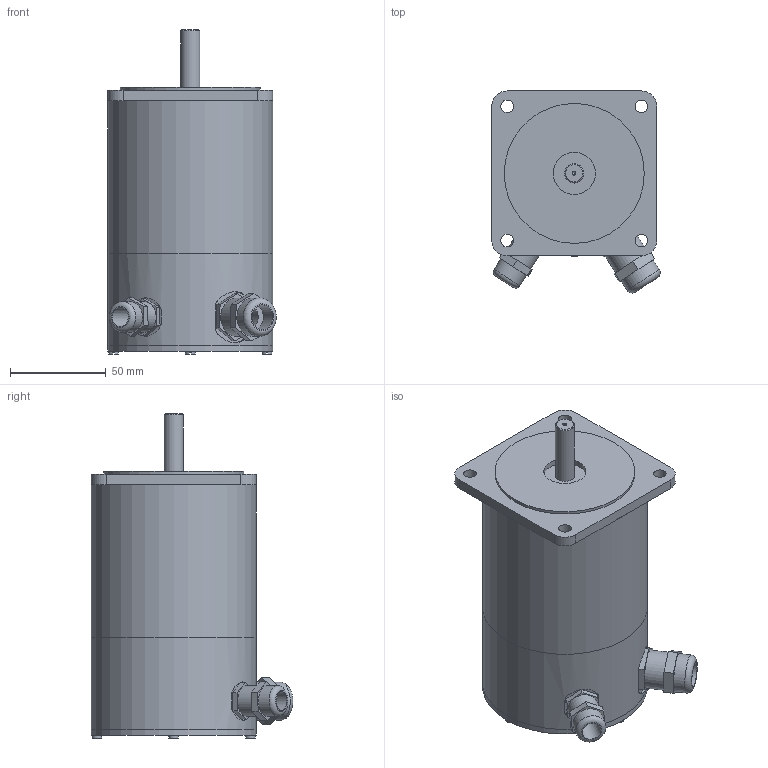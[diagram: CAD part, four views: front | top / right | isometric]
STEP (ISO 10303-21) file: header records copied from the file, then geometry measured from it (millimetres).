
FILE_DESCRIPTION((''),'2;1');
FILE_NAME('C:\Users\Reinhard\Documents\Inventor\Testschrittmotor\SM87\SM87.2-H200-KV.stp','2012-11-14T20:28:35',('Reinhard'),(''),'Autodesk Inventor 2012','Autodesk Inventor 2012','');
FILE_SCHEMA(('CONFIG_CONTROL_DESIGN'));
Length unit declared in the file: millimetre
Products named in the file (1): SM87
Bounding box: 87.8 x 105.15 x 169 mm (x, y, z)
Volume: 163563 mm3; surface area: 102443.2 mm2
Topology: 2 solids, 2 shells, 125 faces, 281 edges, 185 vertices
Faces by surface type: plane 79, cylinder 42, torus 2, cone 2
Full cylindrical faces by diameter (mm): 2 x1, 5 x4, 6.6 x4, 10 x2, 12 x2, 13 x2, 15 x1, 16 x2, 18.376 x1, 20 x3, 22 x1, 73 x1, 78 x2, 82 x1, 86 x3
Entity records: 3404 total; most frequent: CARTESIAN_POINT 674, DIRECTION 568, ORIENTED_EDGE 476, EDGE_CURVE 238, AXIS2_PLACEMENT_3D 218, EDGE_LOOP 198, VERTEX_POINT 176, VECTOR 132
